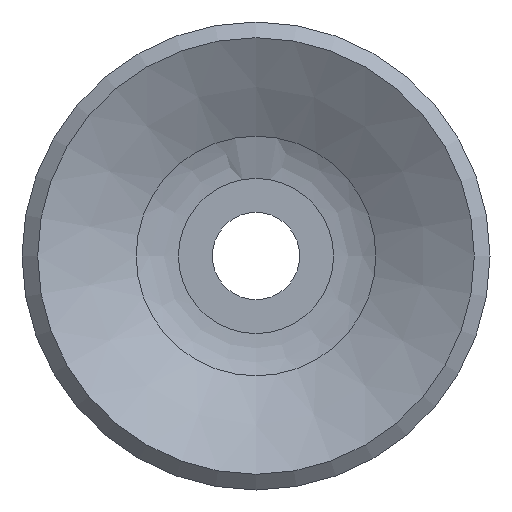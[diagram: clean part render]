
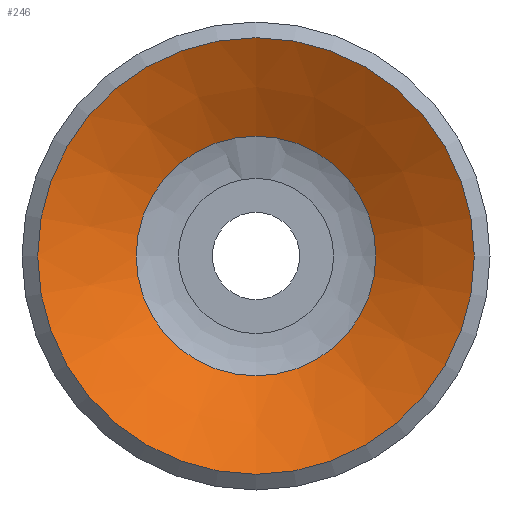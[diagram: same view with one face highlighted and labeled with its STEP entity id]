
A CAD part, front view. The second image highlights one B-rep face of the part: STEP entity #246.
In plain terms, the highlighted conical face has half-angle 61 degrees and reference radius 2.746 mm.
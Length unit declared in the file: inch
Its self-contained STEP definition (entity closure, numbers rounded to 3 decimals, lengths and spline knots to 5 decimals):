
#67 = FACE_BOUND ( 'NONE', #1611, .T. ) ;
#102 = CARTESIAN_POINT ( 'NONE',  ( 0., 0., 0. ) ) ;
#139 = EDGE_LOOP ( 'NONE', ( #676 ) ) ;
#183 = EDGE_CURVE ( 'NONE', #283, #283, #1381, .T. ) ;
#246 = ADVANCED_FACE ( 'NONE', ( #1232, #67 ), #1912, .F. ) ;
#283 = VERTEX_POINT ( 'NONE', #1546 ) ;
#293 = DIRECTION ( 'NONE',  ( 0., 0., -1. ) ) ;
#305 = DIRECTION ( 'NONE',  ( 0., 0., -1. ) ) ;
#395 = VERTEX_POINT ( 'NONE', #545 ) ;
#472 = EDGE_CURVE ( 'NONE', #395, #395, #557, .T. ) ;
#479 = AXIS2_PLACEMENT_3D ( 'NONE', #2150, #1961, #305 ) ;
#545 = CARTESIAN_POINT ( 'NONE',  ( 0., 0., -0.19685 ) ) ;
#557 = CIRCLE ( 'NONE', #579, 0.19685 ) ;
#579 = AXIS2_PLACEMENT_3D ( 'NONE', #102, #1931, #1157 ) ;
#676 = ORIENTED_EDGE ( 'NONE', *, *, #472, .T. ) ;
#825 = CARTESIAN_POINT ( 'NONE',  ( 0., 0.04918, 0. ) ) ;
#1157 = DIRECTION ( 'NONE',  ( 0., 0., -1. ) ) ;
#1232 = FACE_OUTER_BOUND ( 'NONE', #139, .T. ) ;
#1292 = DIRECTION ( 'NONE',  ( 0., -1., 0. ) ) ;
#1381 = CIRCLE ( 'NONE', #479, 0.10812 ) ;
#1546 = CARTESIAN_POINT ( 'NONE',  ( 0., 0.04918, -0.10812 ) ) ;
#1611 = EDGE_LOOP ( 'NONE', ( #2068 ) ) ;
#1740 = AXIS2_PLACEMENT_3D ( 'NONE', #825, #1292, #293 ) ;
#1912 = CONICAL_SURFACE ( 'NONE', #1740, 0.10812, 1.065 ) ;
#1931 = DIRECTION ( 'NONE',  ( 0., -1., 0. ) ) ;
#1961 = DIRECTION ( 'NONE',  ( 0., -1., 0. ) ) ;
#2068 = ORIENTED_EDGE ( 'NONE', *, *, #183, .F. ) ;
#2150 = CARTESIAN_POINT ( 'NONE',  ( 0., 0.04918, 0. ) ) ;
